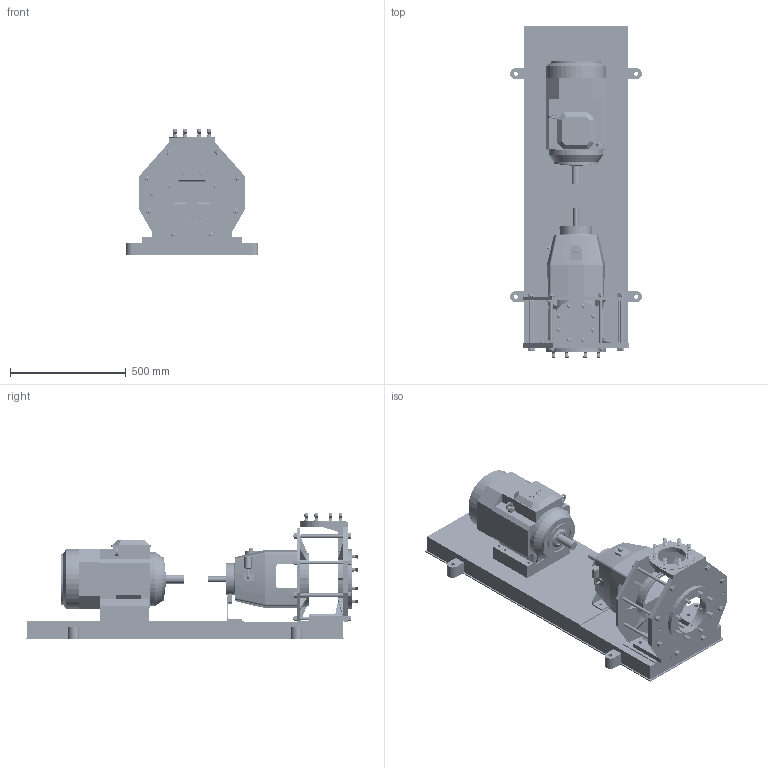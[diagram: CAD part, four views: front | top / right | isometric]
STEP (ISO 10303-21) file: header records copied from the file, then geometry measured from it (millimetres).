
FILE_DESCRIPTION((''),'2;1');
FILE_NAME('KSI 80-200--132 frame.stp','2010-08-04T13:59:26',(''),(''),'AutoCAD STEP 2000i','AutoCAD 2000i',', , ');
FILE_SCHEMA(('CONFIG_CONTROL_DESIGN'));
Length unit declared in the file: millimetre
Products named in the file (2): KSI 80-200--132 FRAME A; A2.4984_85 132 foot
Assembly tree (1 placements, depth 2):
  KSI 80-200--132 FRAME A
    A2.4984_85 132 foot
Bounding box: 570 x 1435 x 547 mm (x, y, z)
Volume: 93756540.4 mm3; surface area: 4088196.8 mm2
Topology: 49 solids, 49 shells, 9167 faces, 22597 edges, 13557 vertices
Faces by surface type: cone 3436, torus 3206, cylinder 1890, plane 608, bspline 27
Entity records: 275664 total; most frequent: DIRECTION 56404, CARTESIAN_POINT 46835, ORIENTED_EDGE 45194, AXIS2_PLACEMENT_3D 24971, EDGE_CURVE 22597, CIRCLE 15829, VERTEX_POINT 13557, EDGE_LOOP 9384
